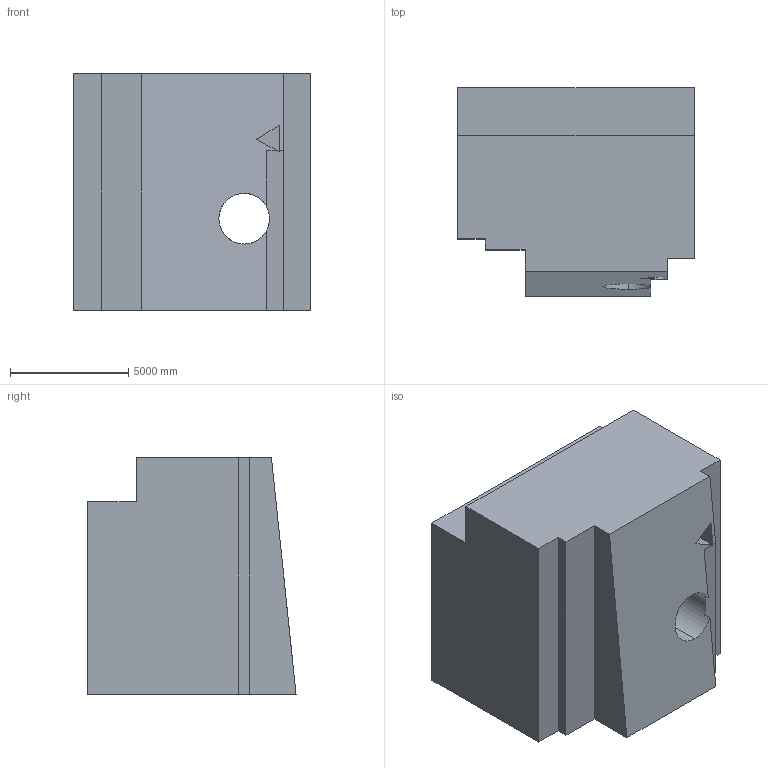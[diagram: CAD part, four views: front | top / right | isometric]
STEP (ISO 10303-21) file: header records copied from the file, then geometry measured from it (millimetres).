
FILE_DESCRIPTION (( 'STEP AP203' ), '1' );
FILE_NAME ('1863.STEP', '2022-08-19T13:40:12', ( 'user' ), ( '' ), 'SwSTEP 2.0', 'SolidWorks 2021', '' );
FILE_SCHEMA (( 'CONFIG_CONTROL_DESIGN' ));
Length unit declared in the file: centimetre
Products named in the file (1): 1863
Bounding box: 10000 x 8788.87 x 10000 mm (x, y, z)
Volume: 687845306881.4 mm3; surface area: 573400765.6 mm2
Topology: 1 solids, 1 shells, 25 faces, 72 edges, 48 vertices
Faces by surface type: plane 23, cylinder 2
Entity records: 890 total; most frequent: CARTESIAN_POINT 155, ORIENTED_EDGE 144, DIRECTION 124, EDGE_CURVE 72, VECTOR 66, LINE 66, VERTEX_POINT 48, AXIS2_PLACEMENT_3D 29
